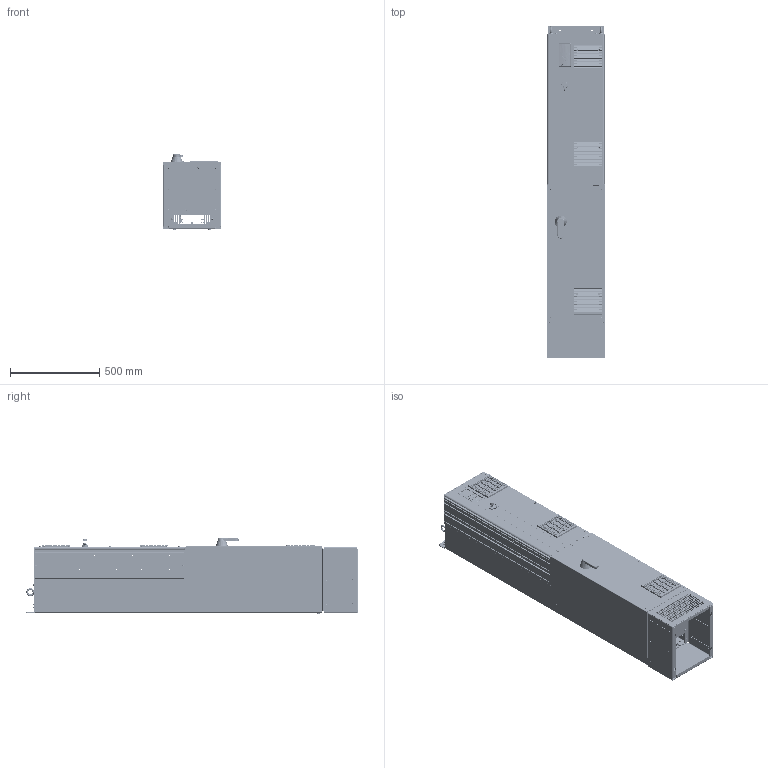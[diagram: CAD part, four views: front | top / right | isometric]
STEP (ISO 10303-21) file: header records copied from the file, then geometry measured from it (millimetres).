
FILE_DESCRIPTION((''),'2;1');
FILE_NAME('P454-1018_ASM','2014-08-05T',('U251643'),('Danfoss Power Electronics'),'PRO/ENGINEER BY PARAMETRIC TECHNOLOGY CORPORATION, 2013050','PRO/ENGINEER BY PARAMETRIC TECHNOLOGY CORPORATION, 2013050','');
FILE_SCHEMA(('CONFIG_CONTROL_DESIGN','GEOMETRIC_VALIDATION_PROPERTIES_MIM'));
Products named in the file (208): 177G6027; FH-M5-12-ZI; FH-M8-20-ZI; SS-M5-2-ZI; S-M10-1-ZI; 177G6027_ASM; 177G6087; FH-M5-10-ZI; TPS-5MM-10; 177G6087_ASM; 177G5921; 177G5938; 177G6051; PEM_N10-M5-1-ZI; 177G6051_ASM; 26513; P454-1189_ASM; 177G6025; FH-M5-8-ZI; HFH-M10-20-ZI; 177G6025_ASM; 177G6030; 177G6030_ASM; 177G6028; SS-M5-1-ZI; 177G6028_ASM; 177G6029; 177G6029_ASM; SF-5-16-ZI; 177G6026_ASM; 177G5922; 681X9143; 26516; 177G6007; 177G6007_ASM; 177G5923; 177G4180; 177G4180_ASM; 177G6004; FH-M8-25-ZI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
Assembly tree (732 placements, depth 6):
  P454-1018_ASM
    177G6027_ASM
      177G6027
      FH-M5-12-ZI  x25
      FH-M8-20-ZI  x2
      SS-M5-2-ZI  x26
      S-M10-1-ZI  x2
    P454-1189_ASM
      177G6087_ASM
        177G6087
        FH-M5-10-ZI  x2
        SS-M5-2-ZI  x2
        TPS-5MM-10  x2
      177G5921
      177G5938
      177G6051_ASM
        177G6051
        PEM_N10-M5-1-ZI
      26513  x2
    26513  x34
    177G6026_ASM
      177G6025_ASM
        177G6025
        FH-M5-10-ZI  x14
        SS-M5-2-ZI  x6
        FH-M5-8-ZI  x2
        HFH-M10-20-ZI  x3
      177G6030_ASM
        177G6030
        FH-M5-8-ZI
      177G6028_ASM
        177G6028
        SS-M5-1-ZI
      177G6029_ASM
        177G6029
        SS-M5-1-ZI
      SF-5-16-ZI  x6
    177G5922  x2
    681X9143  x40
    26516  x5
    177G6007_ASM
      177G6007
    177G5923
    177G4180_ASM
      177G4180
    177G6004_ASM  x2
      177G6004
      FH-M8-25-ZI
    177G6005_ASM
      177G6005
      FH-M8-25-ZI
    177A0061
    177G6009_ASM
      177G6009
      FH-M5-8-ZI  x2
      SS-M5-2-ZI  x4
      S-M8-1-ZI  x4
      FH-M5-10-ZI  x4
    177G6003_ASM
      177G6003
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Bounding box: 329.6 x 1864.25 x 421.57 mm (x, y, z)
Volume: 17782634.2 mm3; surface area: 12197652.6 mm2
Topology: 697 solids, 751 shells, 34827 faces, 90877 edges, 58259 vertices
Faces by surface type: plane 20988, cylinder 8163, bspline 2163, cone 1716, torus 1427, sphere 196, revolution 148, extrusion 26
Entity records: 778925 total; most frequent: CARTESIAN_POINT 173877, ORIENTED_EDGE 101812, DIRECTION 96442, EDGE_CURVE 51393, VECTOR 36300, LINE 36274, PRESENTATION_STYLE_ASSIGNMENT 34784, STYLED_ITEM 34681
